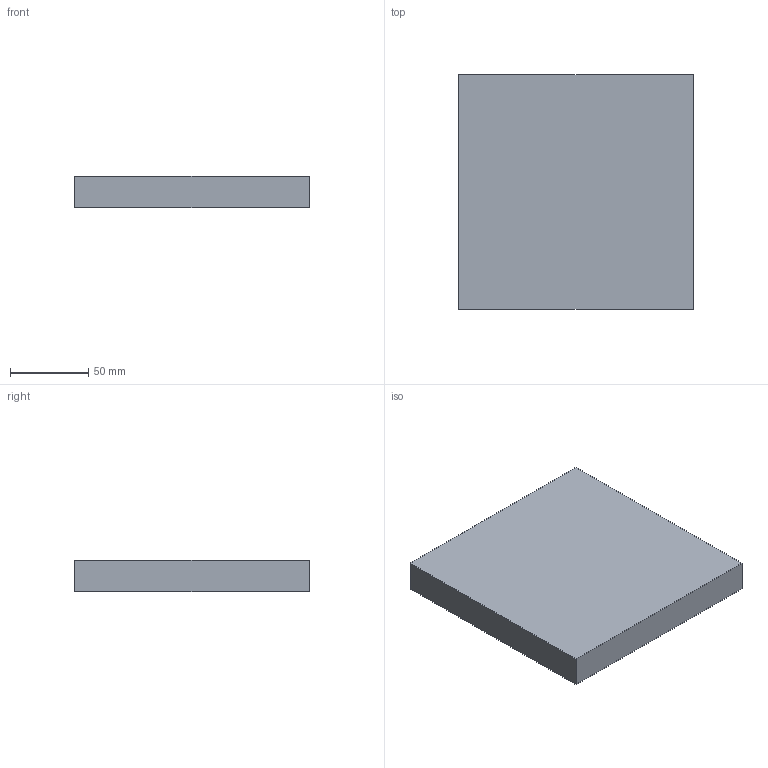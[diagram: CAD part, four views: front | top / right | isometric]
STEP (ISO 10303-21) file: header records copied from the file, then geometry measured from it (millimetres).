
FILE_DESCRIPTION(('Open CASCADE Model'),'2;1');
FILE_NAME('Open CASCADE Shape Model','2026-10-19T10:09:21',('Author'),( 'Open CASCADE'),'Open CASCADE STEP processor 8.0','Open CASCADE 8.0' ,'Unknown');
FILE_SCHEMA(('AUTOMOTIVE_DESIGN { 1 0 10303 214 1 1 1 1 }'));
Length unit declared in the file: millimetre
Products named in the file (1): GRID_ASIENTO_150x150x20_P05 139
Bounding box: 150 x 150 x 20 mm (x, y, z)
Volume: 450000 mm3; surface area: 57000 mm2
Topology: 1 solids, 1 shells, 6 faces, 12 edges, 8 vertices
Faces by surface type: plane 6
Entity records: 322 total; most frequent: CARTESIAN_POINT 51, DIRECTION 50, LINE 36, VECTOR 36, ORIENTED_EDGE 24, PCURVE 24, DEFINITIONAL_REPRESENTATION 24, EDGE_CURVE 12
